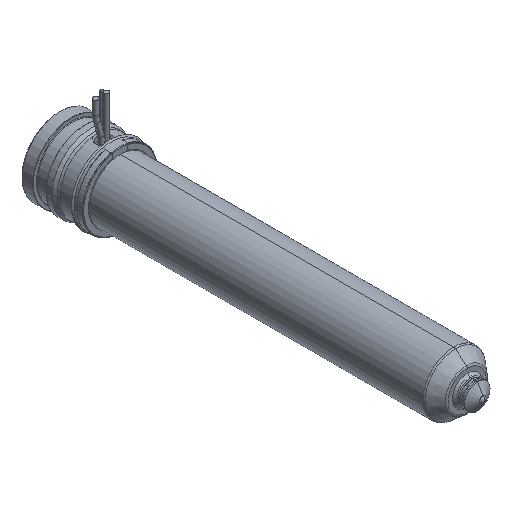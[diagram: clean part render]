
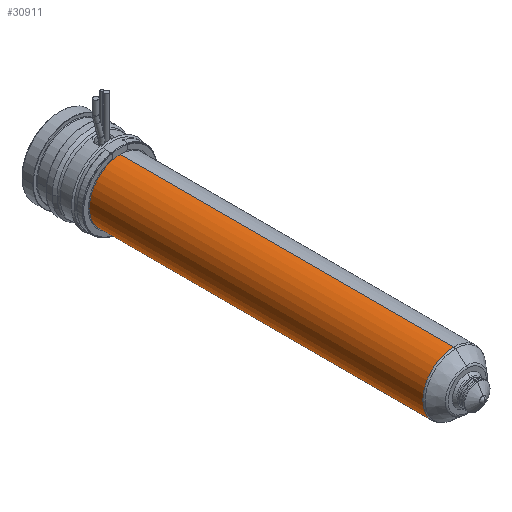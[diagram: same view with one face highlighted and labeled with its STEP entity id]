
A CAD part, isometric view. The second image highlights one B-rep face of the part: STEP entity #30911.
In plain terms, the highlighted cylindrical face has radius 12 mm (diameter 24 mm), a partial arc.
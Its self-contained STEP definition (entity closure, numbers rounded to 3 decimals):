
#30396=CARTESIAN_POINT('',(0.,-24.,0.));
#30397=DIRECTION('',(0.,1.,0.));
#30398=DIRECTION('',(0.,0.,-1.));
#30399=AXIS2_PLACEMENT_3D('',#30396,#30397,#30398);
#30404=DIRECTION('',(0.,1.,0.));
#30405=VECTOR('',#30404,129.736);
#30406=CARTESIAN_POINT('',(0.,-153.736,12.));
#30407=LINE('',#30406,#30405);
#30419=DIRECTION('',(0.,1.,0.));
#30420=VECTOR('',#30419,129.736);
#30421=CARTESIAN_POINT('',(0.,-153.736,-12.));
#30422=LINE('',#30421,#30420);
#30450=CARTESIAN_POINT('',(0.,-153.736,0.));
#30451=DIRECTION('',(0.,-1.,0.));
#30452=DIRECTION('',(0.,0.,1.));
#30453=AXIS2_PLACEMENT_3D('',#30450,#30451,#30452);
#30780=CARTESIAN_POINT('',(0.,-153.736,12.));
#30781=CARTESIAN_POINT('',(0.,-24.,12.));
#30782=VERTEX_POINT('',#30780);
#30783=VERTEX_POINT('',#30781);
#30784=CARTESIAN_POINT('',(0.,-153.736,-12.));
#30785=CARTESIAN_POINT('',(0.,-24.,-12.));
#30786=VERTEX_POINT('',#30784);
#30787=VERTEX_POINT('',#30785);
#30897=CARTESIAN_POINT('',(0.,-12.7,0.));
#30898=DIRECTION('',(0.,-1.,0.));
#30899=DIRECTION('',(0.,0.,1.));
#30900=AXIS2_PLACEMENT_3D('',#30897,#30898,#30899);
#30901=CYLINDRICAL_SURFACE('',#30900,12.);
#30903=ORIENTED_EDGE('',*,*,#30902,.F.);
#30905=ORIENTED_EDGE('',*,*,#30904,.T.);
#30907=ORIENTED_EDGE('',*,*,#30906,.T.);
#30908=ORIENTED_EDGE('',*,*,#30890,.T.);
#30909=EDGE_LOOP('',(#30903,#30905,#30907,#30908));
#30910=FACE_OUTER_BOUND('',#30909,.F.);
#30911=ADVANCED_FACE('',(#30910),#30901,.T.);
#30400=CIRCLE('',#30399,12.);
#30454=CIRCLE('',#30453,12.);
#30890=EDGE_CURVE('',#30787,#30783,#30400,.T.);
#30902=EDGE_CURVE('',#30782,#30783,#30407,.T.);
#30904=EDGE_CURVE('',#30782,#30786,#30454,.T.);
#30906=EDGE_CURVE('',#30786,#30787,#30422,.T.);
